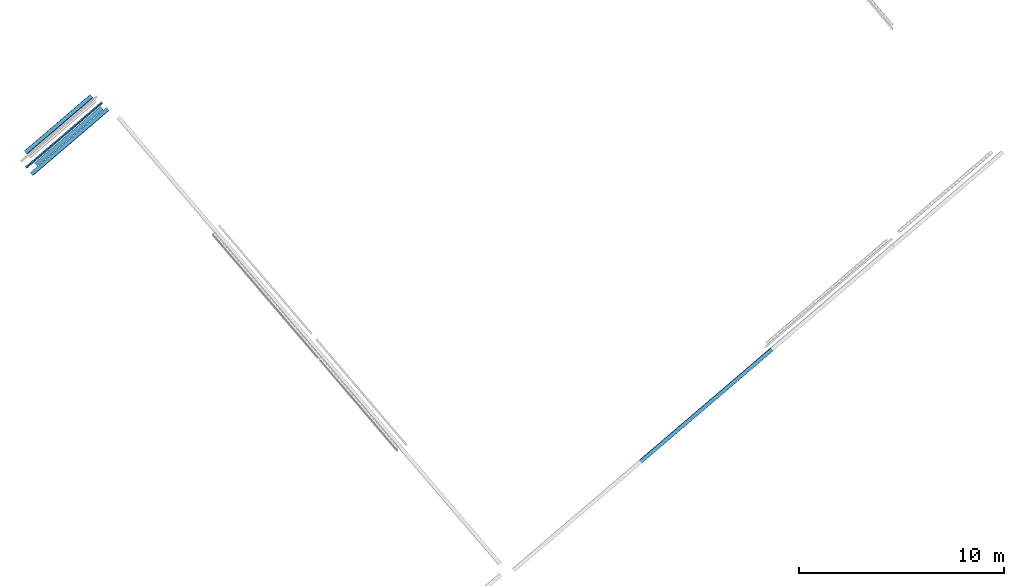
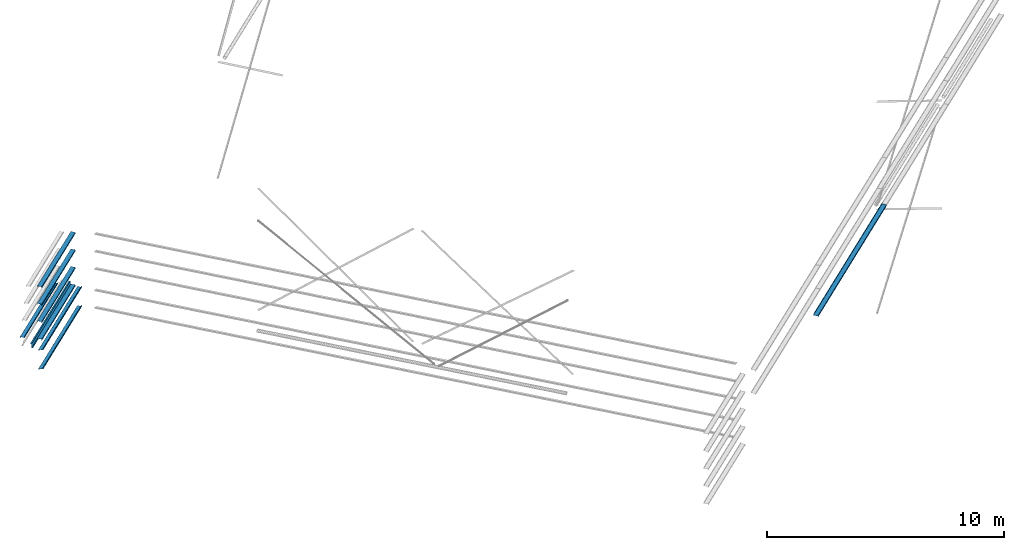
# One storey, part 3 of 6: 8 beams, 1 member.
"""IFC2X3 building model written with IfcOpenShell, lengths in millimetres."""

from ifc_helpers import new_model, entity, si_unit, converted_unit, derived_unit, direction, frame, frame_2d, origin, place, context, subcontext, project, spatial, polyline, circle_curve, parameter, trimmed, segment, composite_curve, outline, extrude, source, transform, mapped, material, type_object, type_shapes, element, save


model = new_model("IFC2X3")

# Units and contexts
model_context = context("Model", 3, precision=0.01, world=origin(), true_north=direction((6.123031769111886e-17, 1.0)))
body_context = subcontext(model_context, "Body", "Model", "MODEL_VIEW")
ifc_project = project(units=[si_unit("LENGTHUNIT", "METRE", prefix="MILLI"), si_unit("AREAUNIT", "SQUARE_METRE"), si_unit("VOLUMEUNIT", "CUBIC_METRE"), converted_unit("PLANEANGLEUNIT", "DEGREE", entity("IfcRatioMeasure", 0.017453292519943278), si_unit("PLANEANGLEUNIT", "RADIAN"), dimensions=[0, 0, 0, 0, 0, 0, 0]), si_unit("MASSUNIT", "GRAM", prefix="KILO"), derived_unit("MASSDENSITYUNIT", [(si_unit("MASSUNIT", "GRAM", prefix="KILO"), 1), (si_unit("LENGTHUNIT", "METRE"), -3)]), derived_unit("MOMENTOFINERTIAUNIT", [(si_unit("LENGTHUNIT", "METRE"), 4)]), si_unit("TIMEUNIT", "SECOND"), si_unit("FREQUENCYUNIT", "HERTZ"), si_unit("THERMODYNAMICTEMPERATUREUNIT", "DEGREE_CELSIUS"), derived_unit("THERMALTRANSMITTANCEUNIT", [(si_unit("MASSUNIT", "GRAM", prefix="KILO"), 1), (si_unit("THERMODYNAMICTEMPERATUREUNIT", "KELVIN"), -1), (si_unit("TIMEUNIT", "SECOND"), -3)]), derived_unit("VOLUMETRICFLOWRATEUNIT", [(si_unit("LENGTHUNIT", "METRE"), 3), (si_unit("TIMEUNIT", "SECOND"), -1)]), derived_unit("MASSFLOWRATEUNIT", [(si_unit("MASSUNIT", "GRAM", prefix="KILO"), 1), (si_unit("TIMEUNIT", "SECOND"), -1)]), derived_unit("ROTATIONALFREQUENCYUNIT", [(si_unit("TIMEUNIT", "SECOND"), -1)]), si_unit("ELECTRICCURRENTUNIT", "AMPERE"), si_unit("ELECTRICVOLTAGEUNIT", "VOLT"), si_unit("POWERUNIT", "WATT"), si_unit("FORCEUNIT", "NEWTON", prefix="KILO"), si_unit("ILLUMINANCEUNIT", "LUX"), si_unit("LUMINOUSFLUXUNIT", "LUMEN"), si_unit("LUMINOUSINTENSITYUNIT", "CANDELA"), derived_unit("USERDEFINED", [(si_unit("MASSUNIT", "GRAM", prefix="KILO"), -1), (si_unit("LENGTHUNIT", "METRE"), -2), (si_unit("TIMEUNIT", "SECOND"), 3), (si_unit("LUMINOUSFLUXUNIT", "LUMEN"), 1)]), derived_unit("SOUNDPOWERUNIT", [(si_unit("MASSUNIT", "GRAM", prefix="KILO"), 1), (si_unit("LENGTHUNIT", "METRE"), 2), (si_unit("TIMEUNIT", "SECOND"), -3)]), derived_unit("LINEARVELOCITYUNIT", [(si_unit("LENGTHUNIT", "METRE"), 1), (si_unit("TIMEUNIT", "SECOND"), -1)]), si_unit("PRESSUREUNIT", "PASCAL"), derived_unit("USERDEFINED", [(si_unit("LENGTHUNIT", "METRE"), -2), (si_unit("MASSUNIT", "GRAM", prefix="KILO"), 1), (si_unit("TIMEUNIT", "SECOND"), -2)]), derived_unit("LINEARFORCEUNIT", [(si_unit("MASSUNIT", "GRAM", prefix="KILO"), 1), (si_unit("LENGTHUNIT", "METRE"), 1), (si_unit("TIMEUNIT", "SECOND"), -2), (si_unit("LENGTHUNIT", "METRE"), -1)]), derived_unit("PLANARFORCEUNIT", [(si_unit("MASSUNIT", "GRAM", prefix="KILO"), 1), (si_unit("LENGTHUNIT", "METRE"), 1), (si_unit("TIMEUNIT", "SECOND"), -2), (si_unit("LENGTHUNIT", "METRE"), -2)])], contexts=[model_context])

# Site, building, storey
site_placement = place(None, frame((962.4174930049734, -6014.433753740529, 0.0), z_axis=(0.0, 0.0, 1.0), x_axis=(0.7601792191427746, 0.649713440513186, 0.0)))
site = spatial("IfcSite", under=ifc_project, at=site_placement, Name="Default", CompositionType="ELEMENT")
building_placement = place(site_placement, origin())
building = spatial("IfcBuilding", under=site, at=building_placement, CompositionType="ELEMENT")
storey_placement = place(building_placement, frame((0.0, 0.0, 8925.0)))
storey = spatial("IfcBuildingStorey", under=building, at=storey_placement, Name="TOP OF PLANT ROOM", CompositionType="ELEMENT", Elevation=8925.000000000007)

# Beams
ifc_material_1 = material(Name="Metal - Steel - 300 MPa")
beam_type_1 = type_object("IfcBeamType", Name="ADSK_UK_Light Gauge-Zeds-Purlin:Metsec-202Z14", PredefinedType="NOTDEFINED")
beam_1_placement = place(storey_placement, frame((154043.43877903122, 3650.5219178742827, -3341.0), z_axis=(0.0, 0.0, 1.0), x_axis=(-1.0, 0.0, 0.0)))
element("IfcBeam", 1, at=beam_1_placement, inside=storey, type_object=beam_type_1, material=ifc_material_1, Name="ADSK_UK_Light Gauge-Zeds-Purlin:Metsec-202Z14", ObjectType="ADSK_UK_Light Gauge-Zeds-Purlin:Metsec-202Z14", context=body_context, shape_type="SweptSolid", body=[
    extrude(outline(composite_curve([segment(polyline([(3.599999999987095, -101.20000000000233), (58.0, -101.20000000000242)]), True, "CONTINUOUS"), segment(trimmed(circle_curve(frame_2d((58.0, -98.40000000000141), x_axis=(0.0, -1.0)), 2.8000000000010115), [parameter(0.0)], [parameter(89.99999999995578)], True, "PARAMETER"), True, "CONTINUOUS"), segment(polyline([(60.79999999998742, -98.4000000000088), (60.799999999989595, -80.20000000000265)]), True, "CONTINUOUS"), segment(polyline([(60.799999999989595, -80.20000000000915), (59.399999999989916, -80.20000000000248)]), True, "CONTINUOUS"), segment(polyline([(59.399999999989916, -80.20000000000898), (59.39999999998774, -98.40000000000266)]), True, "CONTINUOUS"), segment(trimmed(circle_curve(frame_2d((58.0, -98.40000000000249), x_axis=(1.0, 0.0)), 1.4000000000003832), [parameter(270.0000000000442)], [parameter(0.0)], True, "PARAMETER"), False, "CONTINUOUS"), segment(polyline([(58.0, -99.80000000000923), (3.599999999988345, -99.79999999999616)]), True, "CONTINUOUS"), segment(trimmed(circle_curve(frame_2d((3.599999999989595, -98.39999999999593), x_axis=(0.0, -1.0)), 1.4000000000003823), [parameter(270.0000000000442)], [parameter(0.0)], True, "PARAMETER"), False, "CONTINUOUS"), segment(polyline([(2.1999999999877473, -98.40000000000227), (2.200000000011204, 98.0)]), True, "CONTINUOUS"), segment(trimmed(circle_curve(frame_2d((-0.599999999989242, 98.0), x_axis=(1.0, 0.0)), 2.800000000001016), [parameter(0.0)], [parameter(89.99999999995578)], True, "PARAMETER"), True, "CONTINUOUS"), segment(polyline([(-0.5999999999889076, 100.79999999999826), (-60.0, 100.80000000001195)]), True, "CONTINUOUS"), segment(trimmed(circle_curve(frame_2d((-60.0, 98.0), x_axis=(0.0, 1.0)), 2.8000000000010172), [parameter(0.0)], [parameter(89.99999999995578)], True, "PARAMETER"), True, "CONTINUOUS"), segment(polyline([(-62.799999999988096, 98.0), (-62.79999999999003, 81.80000000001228)]), True, "CONTINUOUS"), segment(polyline([(-62.799999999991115, 81.80000000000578), (-61.39999999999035, 81.8000000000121)]), True, "CONTINUOUS"), segment(polyline([(-61.39999999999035, 81.80000000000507), (-61.39999999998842, 98.0)]), True, "CONTINUOUS"), segment(trimmed(circle_curve(frame_2d((-60.0, 98.0), x_axis=(-1.0, 0.0)), 1.4000000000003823), [parameter(270.0000000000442)], [parameter(0.0)], True, "PARAMETER"), False, "CONTINUOUS"), segment(polyline([(-60.0, 99.40000000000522), (-0.5999999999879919, 99.40000000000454)]), True, "CONTINUOUS"), segment(trimmed(circle_curve(frame_2d((-0.599999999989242, 98.0), x_axis=(0.0, 1.0)), 1.4000000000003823), [parameter(270.0000000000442)], [parameter(0.0)], True, "PARAMETER"), False, "CONTINUOUS"), segment(polyline([(0.8000000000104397, 98.0), (0.7999999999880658, -98.39999999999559)]), True, "CONTINUOUS"), segment(trimmed(circle_curve(frame_2d((3.599999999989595, -98.39999999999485), x_axis=(-1.0, 0.0)), 2.800000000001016), [parameter(0.0)], [parameter(89.99999999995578)], True, "PARAMETER"), True, "CONTINUOUS")], self_intersect=False)), frame((-1.0, -100.80000000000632, 0.699999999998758), z_axis=(1.0, 0.0, 0.0), x_axis=(0.0, 0.0, -1.0)), (0.0, 0.0, 1.0), 4900.999999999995),
])
beam_2_placement = place(storey_placement, frame((154043.43877903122, 3650.5219178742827, -4325.0), z_axis=(0.0, 0.0, 1.0), x_axis=(-1.0, 0.0, 0.0)))
element("IfcBeam", 2, at=beam_2_placement, inside=storey, type_object=beam_type_1, material=ifc_material_1, Name="ADSK_UK_Light Gauge-Zeds-Purlin:Metsec-202Z14", ObjectType="ADSK_UK_Light Gauge-Zeds-Purlin:Metsec-202Z14", context=body_context, shape_type="SweptSolid", body=[
    extrude(outline(composite_curve([segment(polyline([(3.5999999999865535, -101.20000000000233), (58.0, -101.20000000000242)]), True, "CONTINUOUS"), segment(trimmed(circle_curve(frame_2d((58.0, -98.40000000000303), x_axis=(0.0, -1.0)), 2.7999999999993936), [parameter(0.0)], [parameter(90.00000000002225)], True, "PARAMETER"), True, "CONTINUOUS"), segment(polyline([(60.79999999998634, -98.4000000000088), (60.799999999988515, -80.20000000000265)]), True, "CONTINUOUS"), segment(polyline([(60.799999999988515, -80.20000000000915), (59.39999999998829, -80.20000000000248)]), True, "CONTINUOUS"), segment(polyline([(59.39999999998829, -80.20000000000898), (59.399999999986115, -98.40000000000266)]), True, "CONTINUOUS"), segment(trimmed(circle_curve(frame_2d((58.0, -98.40000000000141), x_axis=(1.0, 0.0)), 1.400000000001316), [parameter(270.00000000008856)], [parameter(0.0)], True, "PARAMETER"), False, "CONTINUOUS"), segment(polyline([(58.0, -99.80000000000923), (3.5999999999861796, -99.79999999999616)]), True, "CONTINUOUS"), segment(trimmed(circle_curve(frame_2d((3.5999999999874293, -98.39999999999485), x_axis=(0.0, -1.0)), 1.4000000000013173), [parameter(270.00000000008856)], [parameter(0.0)], True, "PARAMETER"), False, "CONTINUOUS"), segment(polyline([(2.199999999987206, -98.40000000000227), (2.2000000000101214, 98.0)]), True, "CONTINUOUS"), segment(trimmed(circle_curve(frame_2d((-0.5999999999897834, 98.0), x_axis=(1.0, 0.0)), 2.7999999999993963), [parameter(0.0)], [parameter(90.00000000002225)], True, "PARAMETER"), True, "CONTINUOUS"), segment(polyline([(-0.5999999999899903, 100.79999999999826), (-60.0, 100.80000000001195)]), True, "CONTINUOUS"), segment(trimmed(circle_curve(frame_2d((-60.0, 98.0), x_axis=(0.0, 1.0)), 2.7999999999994), [parameter(0.0)], [parameter(90.00000000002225)], True, "PARAMETER"), True, "CONTINUOUS"), segment(polyline([(-62.79999999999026, 98.0), (-62.799999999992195, 81.80000000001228)]), True, "CONTINUOUS"), segment(polyline([(-62.799999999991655, 81.80000000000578), (-61.39999999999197, 81.8000000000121)]), True, "CONTINUOUS"), segment(polyline([(-61.39999999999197, 81.80000000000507), (-61.39999999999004, 98.0)]), True, "CONTINUOUS"), segment(trimmed(circle_curve(frame_2d((-60.0, 98.0), x_axis=(-1.0, 0.0)), 1.4000000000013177), [parameter(270.00000000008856)], [parameter(0.0)], True, "PARAMETER"), False, "CONTINUOUS"), segment(polyline([(-60.0, 99.40000000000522), (-0.5999999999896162, 99.40000000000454)]), True, "CONTINUOUS"), segment(trimmed(circle_curve(frame_2d((-0.5999999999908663, 98.0), x_axis=(0.0, 1.0)), 1.4000000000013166), [parameter(270.00000000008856)], [parameter(0.0)], True, "PARAMETER"), False, "CONTINUOUS"), segment(polyline([(0.8000000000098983, 98.0), (0.7999999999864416, -98.39999999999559)]), True, "CONTINUOUS"), segment(trimmed(circle_curve(frame_2d((3.599999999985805, -98.39999999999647), x_axis=(-1.0, 0.0)), 2.7999999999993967), [parameter(0.0)], [parameter(90.00000000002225)], True, "PARAMETER"), True, "CONTINUOUS")], self_intersect=False)), frame((-1.0, -100.80000000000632, 0.6999999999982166), z_axis=(1.0, 0.0, 0.0), x_axis=(0.0, 0.0, -1.0)), (0.0, 0.0, 1.0), 4900.999999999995),
])
beam_3_placement = place(storey_placement, frame((153845.96020471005, 4845.487836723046, -3228.97126836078), z_axis=(0.0, 0.0, 1.0), x_axis=(-1.0, 0.0, 0.0)))
element("IfcBeam", 3, at=beam_3_placement, inside=storey, type_object=beam_type_1, material=ifc_material_1, Name="ADSK_UK_Light Gauge-Zeds-Purlin:Metsec-202Z14", ObjectType="ADSK_UK_Light Gauge-Zeds-Purlin:Metsec-202Z14", context=body_context, shape_type="SweptSolid", body=[
    extrude(outline(composite_curve([segment(trimmed(circle_curve(frame_2d((98.400000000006, 58.0), x_axis=(1.0, 0.0)), 2.7999999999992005), [parameter(0.0)], [parameter(90.00000000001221)], True, "PARAMETER"), True, "CONTINUOUS"), segment(polyline([(98.39999999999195, 60.80000000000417), (80.20000000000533, 60.80000000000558)]), True, "CONTINUOUS"), segment(polyline([(80.19999999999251, 60.80000000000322), (80.20000000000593, 59.40000000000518)]), True, "CONTINUOUS"), segment(polyline([(80.19999999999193, 59.4000000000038), (98.40000000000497, 59.40000000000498)]), True, "CONTINUOUS"), segment(trimmed(circle_curve(frame_2d((98.40000000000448, 58.0), x_axis=(0.0, 1.0)), 1.4000000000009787), [parameter(270.000000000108)], [parameter(0.0)], True, "PARAMETER"), False, "CONTINUOUS"), segment(polyline([(99.79999999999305, 58.0), (99.80000000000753, 3.6000000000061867)]), True, "CONTINUOUS"), segment(trimmed(circle_curve(frame_2d((98.40000000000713, 3.6000000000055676), x_axis=(1.0, 0.0)), 1.4000000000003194), [parameter(269.9999999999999)], [parameter(0.0)], True, "PARAMETER"), False, "CONTINUOUS"), segment(polyline([(98.39999999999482, 2.2000000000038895), (-98.0, 2.199999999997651)]), True, "CONTINUOUS"), segment(trimmed(circle_curve(frame_2d((-98.0, -0.6000000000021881), x_axis=(0.0, 1.0)), 2.7999999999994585), [parameter(0.0)], [parameter(90.00000000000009)], True, "PARAMETER"), True, "CONTINUOUS"), segment(polyline([(-100.80000000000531, -0.6000000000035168), (-100.7999999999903, -60.0)]), True, "CONTINUOUS"), segment(trimmed(circle_curve(frame_2d((-98.0, -60.0), x_axis=(-1.0, 0.0)), 2.7999999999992), [parameter(0.0)], [parameter(90.00000000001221)], True, "PARAMETER"), True, "CONTINUOUS"), segment(polyline([(-98.0, -62.80000000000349), (-81.79999999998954, -62.80000000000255)]), True, "CONTINUOUS"), segment(polyline([(-81.80000000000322, -62.80000000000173), (-81.79999999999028, -61.40000000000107)]), True, "CONTINUOUS"), segment(polyline([(-81.80000000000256, -61.40000000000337), (-98.0, -61.40000000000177)]), True, "CONTINUOUS"), segment(trimmed(circle_curve(frame_2d((-98.0, -60.0), x_axis=(0.0, -1.0)), 1.4000000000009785), [parameter(270.000000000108)], [parameter(0.0)], True, "PARAMETER"), False, "CONTINUOUS"), segment(polyline([(-99.40000000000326, -60.0), (-99.39999999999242, -0.600000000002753)]), True, "CONTINUOUS"), segment(trimmed(circle_curve(frame_2d((-98.0, -0.6000000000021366), x_axis=(-1.0, 0.0)), 1.4000000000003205), [parameter(269.9999999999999)], [parameter(0.0)], True, "PARAMETER"), False, "CONTINUOUS"), segment(polyline([(-98.0, 0.7999999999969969), (98.40000000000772, 0.8000000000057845)]), True, "CONTINUOUS"), segment(trimmed(circle_curve(frame_2d((98.40000000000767, 3.600000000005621), x_axis=(0.0, -1.0)), 2.799999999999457), [parameter(0.0)], [parameter(90.00000000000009)], True, "PARAMETER"), True, "CONTINUOUS"), segment(polyline([(101.19999999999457, 3.6000000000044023), (101.20000000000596, 58.0)]), True, "CONTINUOUS")], self_intersect=False)), frame((0.0, 100.24508507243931, -10.585505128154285), z_axis=(1.0, 0.0, 0.0), x_axis=(0.0, 0.9951761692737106, -0.09810398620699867)), (0.0, 0.0, 1.0), 4240.000000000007),
])
beam_4_placement = place(storey_placement, frame((154043.43877903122, 4170.521917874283, -3139.0), z_axis=(0.0, 0.0, 1.0), x_axis=(-1.0, 0.0, 0.0)))
element("IfcBeam", 4, at=beam_4_placement, inside=storey, type_object=beam_type_1, material=ifc_material_1, Name="ADSK_UK_Light Gauge-Zeds-Purlin:Metsec-202Z14", ObjectType="ADSK_UK_Light Gauge-Zeds-Purlin:Metsec-202Z14", context=body_context, shape_type="SweptSolid", body=[
    extrude(outline(composite_curve([segment(polyline([(-98.0, -62.7999999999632), (-81.80000000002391, -62.799999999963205)]), True, "CONTINUOUS"), segment(polyline([(-81.80000000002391, -62.79999999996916), (-81.80000000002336, -61.39999999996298)]), True, "CONTINUOUS"), segment(polyline([(-81.80000000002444, -61.39999999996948), (-98.0, -61.39999999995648)]), True, "CONTINUOUS"), segment(trimmed(circle_curve(frame_2d((-98.0, -60.0), x_axis=(0.0, -1.0)), 1.4000000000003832), [parameter(270.0000000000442)], [parameter(0.0)], True, "PARAMETER"), False, "CONTINUOUS"), segment(polyline([(-99.40000000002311, -60.0), (-99.3999999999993, -0.5999999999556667)]), True, "CONTINUOUS"), segment(trimmed(circle_curve(frame_2d((-98.0, -0.5999999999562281), x_axis=(-1.0, 0.0)), 1.4000000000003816), [parameter(270.0000000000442)], [parameter(0.0)], True, "PARAMETER"), False, "CONTINUOUS"), segment(polyline([(-98.0, 0.8000000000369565), (98.40000000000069, 0.799999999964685)]), True, "CONTINUOUS"), segment(trimmed(circle_curve(frame_2d((98.40000000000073, 3.599999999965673), x_axis=(0.0, -1.0)), 2.8000000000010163), [parameter(0.0)], [parameter(89.99999999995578)], True, "PARAMETER"), True, "CONTINUOUS"), segment(polyline([(101.20000000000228, 3.5999999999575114), (101.20000000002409, 58.0)]), True, "CONTINUOUS"), segment(trimmed(circle_curve(frame_2d((98.40000000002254, 58.0), x_axis=(1.0, 0.0)), 2.8000000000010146), [parameter(0.0)], [parameter(89.99999999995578)], True, "PARAMETER"), True, "CONTINUOUS"), segment(polyline([(98.40000000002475, 60.79999999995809), (80.20000000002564, 60.79999999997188)]), True, "CONTINUOUS"), segment(polyline([(80.20000000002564, 60.79999999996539), (80.20000000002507, 59.399999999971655)]), True, "CONTINUOUS"), segment(polyline([(80.20000000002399, 59.39999999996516), (98.40000000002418, 59.39999999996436)]), True, "CONTINUOUS"), segment(trimmed(circle_curve(frame_2d((98.40000000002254, 58.0), x_axis=(0.0, 1.0)), 1.4000000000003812), [parameter(270.0000000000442)], [parameter(0.0)], True, "PARAMETER"), False, "CONTINUOUS"), segment(polyline([(99.8000000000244, 58.0), (99.80000000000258, 3.599999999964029)]), True, "CONTINUOUS"), segment(trimmed(circle_curve(frame_2d((98.40000000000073, 3.59999999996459), x_axis=(1.0, 0.0)), 1.400000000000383), [parameter(270.0000000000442)], [parameter(0.0)], True, "PARAMETER"), False, "CONTINUOUS"), segment(polyline([(98.40000000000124, 2.1999999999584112), (-98.0, 2.200000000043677)]), True, "CONTINUOUS"), segment(trimmed(circle_curve(frame_2d((-98.0, -0.5999999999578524), x_axis=(0.0, 1.0)), 2.800000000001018), [parameter(0.0)], [parameter(89.99999999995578)], True, "PARAMETER"), True, "CONTINUOUS"), segment(polyline([(-100.79999999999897, -0.5999999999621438), (-100.80000000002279, -60.0)]), True, "CONTINUOUS"), segment(trimmed(circle_curve(frame_2d((-98.0, -60.0), x_axis=(-1.0, 0.0)), 2.8000000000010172), [parameter(0.0)], [parameter(89.99999999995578)], True, "PARAMETER"), True, "CONTINUOUS")], self_intersect=False)), frame((0.0, -0.7000000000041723, -100.80000000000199), z_axis=(1.0, 0.0, 0.0), x_axis=(0.0, 0.0, -1.0)), (0.0, 0.0, 1.0), 4899.999999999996),
])
beam_type_2 = type_object("IfcBeamType", Name="ADSK_AU_PFC-Parallel Flange Channels (AS 3679_1):200PFC", PredefinedType="NOTDEFINED")
beam_5_placement = place(storey_placement, frame((153845.96020471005, 4077.2318669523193, -3161.7575803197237), z_axis=(0.0, 0.0, 1.0), x_axis=(-1.0, 0.0, 0.0)))
element("IfcBeam", 5, at=beam_5_placement, inside=storey, type_object=beam_type_2, material=ifc_material_1, Name="ADSK_AU_PFC-Parallel Flange Channels (AS 3679_1):200PFC", ObjectType="ADSK_AU_PFC-Parallel Flange Channels (AS 3679_1):200PFC", context=body_context, shape_type="SweptSolid", body=[
    extrude(outline(composite_curve([segment(polyline([(-34.80000000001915, -100.0), (40.19999999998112, -100.0)]), True, "CONTINUOUS"), segment(polyline([(40.199999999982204, -100.0), (40.19999999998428, -88.0)]), True, "CONTINUOUS"), segment(polyline([(40.19999999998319, -88.0), (-16.800000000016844, -88.0)]), True, "CONTINUOUS"), segment(trimmed(circle_curve(frame_2d((-16.80000000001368, -76.0), x_axis=(0.0, -1.0)), 12.000000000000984), [parameter(270.00000000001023)], [parameter(0.0)], True, "PARAMETER"), False, "CONTINUOUS"), segment(polyline([(-28.80000000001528, -76.0), (-28.799999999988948, 76.0)]), True, "CONTINUOUS"), segment(trimmed(circle_curve(frame_2d((-16.79999999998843, 76.0), x_axis=(-1.0, 0.0)), 12.000000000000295), [parameter(269.9999999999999)], [parameter(0.0)], True, "PARAMETER"), False, "CONTINUOUS"), segment(polyline([(-16.799999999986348, 88.0), (40.20000000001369, 88.0)]), True, "CONTINUOUS"), segment(polyline([(40.200000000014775, 88.0), (40.20000000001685, 100.0)]), True, "CONTINUOUS"), segment(polyline([(40.20000000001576, 100.0), (-34.79999999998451, 100.0)]), True, "CONTINUOUS"), segment(polyline([(-34.79999999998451, 100.0), (-34.80000000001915, -100.0)]), True, "CONTINUOUS")], self_intersect=False)), frame((0.0, 100.0, -10.400000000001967), z_axis=(1.0, 0.0, 0.0), x_axis=(0.0, 0.0, -1.0)), (0.0, 0.0, 1.0), 4240.000000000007),
])
beam_6_placement = place(storey_placement, frame((153845.96020471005, 4077.2318669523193, -2261.757580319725), z_axis=(0.0, 0.0, 1.0), x_axis=(-1.0, 0.0, 0.0)))
element("IfcBeam", 6, at=beam_6_placement, inside=storey, type_object=beam_type_2, material=ifc_material_1, Name="ADSK_AU_PFC-Parallel Flange Channels (AS 3679_1):200PFC", ObjectType="ADSK_AU_PFC-Parallel Flange Channels (AS 3679_1):200PFC", context=body_context, shape_type="SweptSolid", body=[
    extrude(outline(composite_curve([segment(polyline([(-34.80000000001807, -100.0), (40.1999999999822, -100.0)]), True, "CONTINUOUS"), segment(polyline([(40.199999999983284, -100.0), (40.19999999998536, -88.0)]), True, "CONTINUOUS"), segment(polyline([(40.19999999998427, -88.0), (-16.80000000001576, -88.0)]), True, "CONTINUOUS"), segment(trimmed(circle_curve(frame_2d((-16.800000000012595, -76.0), x_axis=(0.0, -1.0)), 12.000000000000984), [parameter(270.00000000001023)], [parameter(0.0)], True, "PARAMETER"), False, "CONTINUOUS"), segment(polyline([(-28.8000000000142, -76.0), (-28.799999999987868, 76.0)]), True, "CONTINUOUS"), segment(trimmed(circle_curve(frame_2d((-16.799999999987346, 76.0), x_axis=(-1.0, 0.0)), 12.000000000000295), [parameter(269.9999999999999)], [parameter(0.0)], True, "PARAMETER"), False, "CONTINUOUS"), segment(polyline([(-16.799999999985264, 88.0), (40.20000000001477, 88.0)]), True, "CONTINUOUS"), segment(polyline([(40.200000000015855, 88.0), (40.20000000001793, 100.0)]), True, "CONTINUOUS"), segment(polyline([(40.20000000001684, 100.0), (-34.79999999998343, 100.0)]), True, "CONTINUOUS"), segment(polyline([(-34.79999999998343, 100.0), (-34.80000000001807, -100.0)]), True, "CONTINUOUS")], self_intersect=False)), frame((0.0, 100.0, -10.400000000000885), z_axis=(1.0, 0.0, 0.0), x_axis=(0.0, 0.0, -1.0)), (0.0, 0.0, 1.0), 4240.000000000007),
])
beam_7_placement = place(storey_placement, frame((153845.96020471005, 4077.2318669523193, -1361.757580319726), z_axis=(0.0, 0.0, 1.0), x_axis=(-1.0, 0.0, 0.0)))
element("IfcBeam", 7, at=beam_7_placement, inside=storey, type_object=beam_type_2, material=ifc_material_1, Name="ADSK_AU_PFC-Parallel Flange Channels (AS 3679_1):200PFC", ObjectType="ADSK_AU_PFC-Parallel Flange Channels (AS 3679_1):200PFC", context=body_context, shape_type="SweptSolid", body=[
    extrude(outline(composite_curve([segment(polyline([(-34.80000000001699, -100.0), (40.199999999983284, -100.0)]), True, "CONTINUOUS"), segment(polyline([(40.19999999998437, -100.0), (40.199999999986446, -88.0)]), True, "CONTINUOUS"), segment(polyline([(40.19999999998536, -88.0), (-16.800000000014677, -88.0)]), True, "CONTINUOUS"), segment(trimmed(circle_curve(frame_2d((-16.80000000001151, -76.0), x_axis=(0.0, -1.0)), 12.000000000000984), [parameter(270.00000000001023)], [parameter(0.0)], True, "PARAMETER"), False, "CONTINUOUS"), segment(polyline([(-28.800000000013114, -76.0), (-28.79999999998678, 76.0)]), True, "CONTINUOUS"), segment(trimmed(circle_curve(frame_2d((-16.799999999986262, 76.0), x_axis=(-1.0, 0.0)), 12.000000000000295), [parameter(269.9999999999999)], [parameter(0.0)], True, "PARAMETER"), False, "CONTINUOUS"), segment(polyline([(-16.79999999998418, 88.0), (40.200000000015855, 88.0)]), True, "CONTINUOUS"), segment(polyline([(40.20000000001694, 88.0), (40.20000000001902, 100.0)]), True, "CONTINUOUS"), segment(polyline([(40.20000000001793, 100.0), (-34.79999999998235, 100.0)]), True, "CONTINUOUS"), segment(polyline([(-34.79999999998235, 100.0), (-34.80000000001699, -100.0)]), True, "CONTINUOUS")], self_intersect=False)), frame((0.0, 100.0, -10.399999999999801), z_axis=(1.0, 0.0, 0.0), x_axis=(0.0, 0.0, -1.0)), (0.0, 0.0, 1.0), 4240.000000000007),
])
beam_8_placement = place(storey_placement, frame((153845.96020471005, 4077.2318669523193, -461.7575803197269), z_axis=(0.0, 0.0, 1.0), x_axis=(-1.0, 0.0, 0.0)))
element("IfcBeam", 8, at=beam_8_placement, inside=storey, type_object=beam_type_2, material=ifc_material_1, Name="ADSK_AU_PFC-Parallel Flange Channels (AS 3679_1):200PFC", ObjectType="ADSK_AU_PFC-Parallel Flange Channels (AS 3679_1):200PFC", context=body_context, shape_type="SweptSolid", body=[
    extrude(outline(composite_curve([segment(polyline([(-34.80000000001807, -100.0), (40.1999999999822, -100.0)]), True, "CONTINUOUS"), segment(polyline([(40.199999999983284, -100.0), (40.19999999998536, -88.0)]), True, "CONTINUOUS"), segment(polyline([(40.19999999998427, -88.0), (-16.80000000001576, -88.0)]), True, "CONTINUOUS"), segment(trimmed(circle_curve(frame_2d((-16.800000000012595, -76.0), x_axis=(0.0, -1.0)), 12.000000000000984), [parameter(270.00000000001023)], [parameter(0.0)], True, "PARAMETER"), False, "CONTINUOUS"), segment(polyline([(-28.8000000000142, -76.0), (-28.799999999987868, 76.0)]), True, "CONTINUOUS"), segment(trimmed(circle_curve(frame_2d((-16.799999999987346, 76.0), x_axis=(-1.0, 0.0)), 12.000000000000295), [parameter(269.9999999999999)], [parameter(0.0)], True, "PARAMETER"), False, "CONTINUOUS"), segment(polyline([(-16.799999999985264, 88.0), (40.20000000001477, 88.0)]), True, "CONTINUOUS"), segment(polyline([(40.200000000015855, 88.0), (40.20000000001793, 100.0)]), True, "CONTINUOUS"), segment(polyline([(40.20000000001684, 100.0), (-34.79999999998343, 100.0)]), True, "CONTINUOUS"), segment(polyline([(-34.79999999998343, 100.0), (-34.80000000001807, -100.0)]), True, "CONTINUOUS")], self_intersect=False)), frame((0.0, 100.0, -10.400000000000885), z_axis=(1.0, 0.0, 0.0), x_axis=(0.0, 0.0, -1.0)), (0.0, 0.0, 1.0), 4240.000000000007),
])

# Member
ifc_material_2 = material(Name="Metal - Steel - 345 MPa")
member_type = type_object("IfcMemberType", Name="ADSK_AU_Light Gauge-Zeds:Z20012", PredefinedType="BRACE", material=ifc_material_2)
shared_shape = source(origin(), body_context, "Body", "SweptSolid", [
    extrude(outline(composite_curve([segment(polyline([(-98.30000000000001, -66.44000000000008), (-82.0, -66.44000000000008)]), True, "CONTINUOUS"), segment(polyline([(-82.0, -66.44000000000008), (-82.0, -65.24000000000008)]), True, "CONTINUOUS"), segment(polyline([(-82.0, -65.24000000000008), (-98.29999999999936, -65.24000000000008)]), True, "CONTINUOUS"), segment(trimmed(circle_curve(frame_2d((-98.30000000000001, -63.24000000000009), x_axis=(0.0, -1.0)), 1.999999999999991), [parameter(269.99999999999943)], [parameter(0.0)], True, "PARAMETER"), False, "CONTINUOUS"), segment(polyline([(-100.30000000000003, -63.24000000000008), (-100.29999999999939, -6.439999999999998)]), True, "CONTINUOUS"), segment(trimmed(circle_curve(frame_2d((-98.29999999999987, -6.439999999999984), x_axis=(-1.0, 0.0)), 1.9999999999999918), [parameter(269.9999999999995)], [parameter(0.0)], True, "PARAMETER"), False, "CONTINUOUS"), segment(polyline([(-98.29999999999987, -4.439999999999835), (98.30000000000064, -4.439999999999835)]), True, "CONTINUOUS"), segment(trimmed(circle_curve(frame_2d((98.29999999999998, -1.2399999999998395), x_axis=(0.0, -1.0)), 3.199999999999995), [parameter(0.0)], [parameter(90.00000000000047)], True, "PARAMETER"), True, "CONTINUOUS"), segment(polyline([(101.49999999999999, -1.239999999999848), (101.50000000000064, 68.3599999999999)]), True, "CONTINUOUS"), segment(trimmed(circle_curve(frame_2d((98.29999999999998, 68.35999999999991), x_axis=(1.0, 0.0)), 3.2000000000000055), [parameter(0.0)], [parameter(90.00000000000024)], True, "PARAMETER"), True, "CONTINUOUS"), segment(polyline([(98.3, 71.5599999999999), (82.0, 71.5599999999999)]), True, "CONTINUOUS"), segment(polyline([(82.0, 71.5599999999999), (82.0, 70.3599999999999)]), True, "CONTINUOUS"), segment(polyline([(82.0, 70.3599999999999), (98.30000000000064, 70.3599999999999)]), True, "CONTINUOUS"), segment(trimmed(circle_curve(frame_2d((98.29999999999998, 68.35999999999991), x_axis=(0.0, 1.0)), 1.9999999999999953), [parameter(269.99999999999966)], [parameter(0.0)], True, "PARAMETER"), False, "CONTINUOUS"), segment(polyline([(100.29999999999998, 68.3599999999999), (100.30000000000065, -1.239999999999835)]), True, "CONTINUOUS"), segment(trimmed(circle_curve(frame_2d((98.29999999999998, -1.2399999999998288), x_axis=(1.0, 0.0)), 2.000000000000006), [parameter(270.00000000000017)], [parameter(0.0)], True, "PARAMETER"), False, "CONTINUOUS"), segment(polyline([(98.3, -3.239999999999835), (-98.2999999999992, -3.239999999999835)]), True, "CONTINUOUS"), segment(trimmed(circle_curve(frame_2d((-98.29999999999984, -6.440000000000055), x_axis=(0.0, 1.0)), 3.200000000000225), [parameter(0.0)], [parameter(89.9999999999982)], True, "PARAMETER"), True, "CONTINUOUS"), segment(polyline([(-101.50000000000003, -6.440000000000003), (-101.49999999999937, -63.24000000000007)]), True, "CONTINUOUS"), segment(trimmed(circle_curve(frame_2d((-98.30000000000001, -63.240000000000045), x_axis=(-1.0, 0.0)), 3.2000000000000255), [parameter(0.0)], [parameter(89.99999999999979)], True, "PARAMETER"), True, "CONTINUOUS")], self_intersect=False)), frame((-4419.40000000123, 4.439999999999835, 0.0), z_axis=(1.0, 0.0, 0.0), x_axis=(0.0, 0.0, -1.0)), (0.0, 0.0, 1.0), 8694.900000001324),
])
type_shapes(member_type, [shared_shape])
member_placement = place(storey_placement, frame((166763.46020471, -26224.928082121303, -3302.600000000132), z_axis=(0.0, 1.0, 0.0), x_axis=(1.0, 0.0, 0.0)))
element("IfcMember", 9, at=member_placement, inside=storey, type_object=member_type, material=ifc_material_2, Name="ADSK_AU_Light Gauge-Zeds:Z20012", ObjectType="ADSK_AU_Light Gauge-Zeds:Z20012", context=body_context, shape_type="MappedRepresentation", body=[
    mapped(shared_shape, transform((0.0, 0.0, 0.0), scale=1.0)),
])

save(model, "model.ifc")
